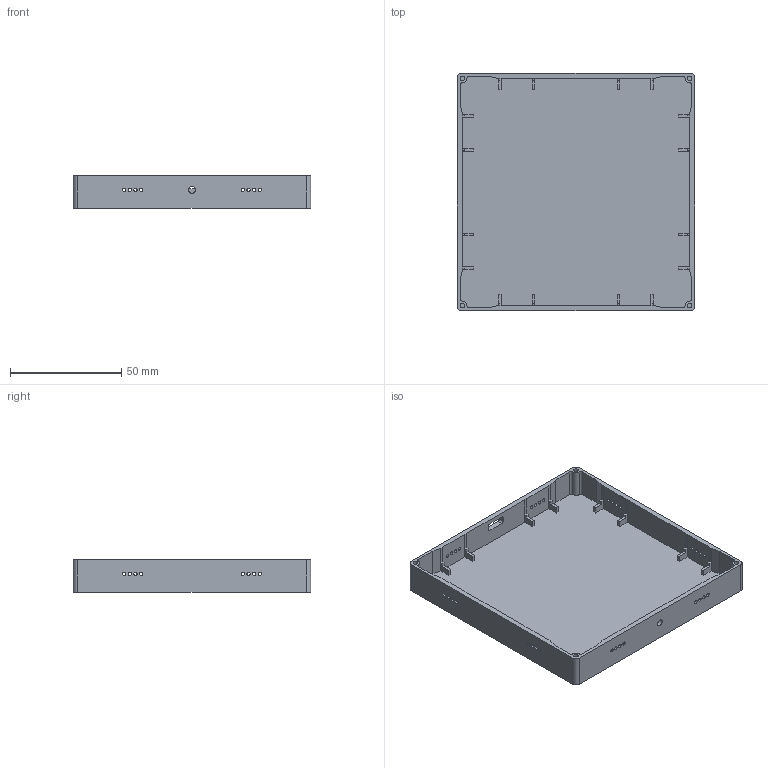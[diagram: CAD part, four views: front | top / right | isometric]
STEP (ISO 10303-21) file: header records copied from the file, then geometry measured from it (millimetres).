
FILE_DESCRIPTION(('FreeCAD Model'),'2;1');
FILE_NAME('F:/Mechanical/G4 Mech/Source/UNIBODY/G4_Unibody_CNC.step', '2018-10-10T16:45:22',('Author'),(''), 'Open CASCADE STEP processor 7.2','FreeCAD','Unknown');
FILE_SCHEMA(('AUTOMOTIVE_DESIGN { 1 0 10303 214 1 1 1 1 }'));
Length unit declared in the file: millimetre
Products named in the file (1): Fillet002
Bounding box: 106.6 x 106.6 x 14.4 mm (x, y, z)
Volume: 33477.1 mm3; surface area: 34973.9 mm2
Topology: 1 solids, 1 shells, 228 faces, 639 edges, 418 vertices
Faces by surface type: plane 155, cylinder 69, bspline 4
Full cylindrical faces by diameter (mm): 1.5 x32, 2.1 x4, 3 x1
Entity records: 16357 total; most frequent: CARTESIAN_POINT 3703, DIRECTION 2281, LINE 1488, VECTOR 1488, ORIENTED_EDGE 1278, PCURVE 1278, DEFINITIONAL_REPRESENTATION 1278, EDGE_CURVE 639
